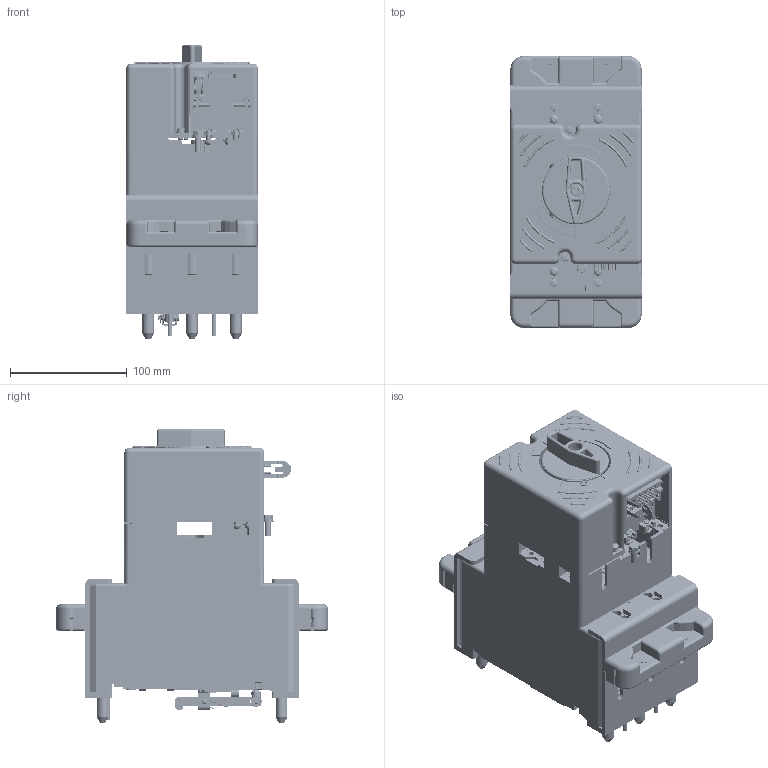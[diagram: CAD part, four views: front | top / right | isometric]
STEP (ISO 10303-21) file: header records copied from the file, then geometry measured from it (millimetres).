
FILE_DESCRIPTION (( 'STEP AP214' ), '1' );
FILE_NAME ('Âûêëþ÷àòåëü ÂÀ57-35 âòû÷íîãî èñïîëíåíèÿ ÝÌÏ.STEP', '2018-04-20T11:05:57', ( '' ), ( '' ), 'SwSTEP 2.0', 'SolidWorks 2018', '' );
FILE_SCHEMA (( 'AUTOMOTIVE_DESIGN' ));
Length unit declared in the file: millimetre
Products named in the file (1): Âûêëþ÷àòåëü ÂÀ57-35 âòû÷íîãî èñïîëíåíèÿ ÝÌÏ
Bounding box: 112.5 x 232.49 x 250.81 mm (x, y, z)
Volume: 1225843.1 mm3; surface area: 682706.2 mm2
Topology: 129 solids, 129 shells, 7010 faces, 18098 edges, 11460 vertices
Faces by surface type: plane 3483, cylinder 2603, cone 328, torus 292, bspline 187, sphere 117
Entity records: 313481 total; most frequent: CARTESIAN_POINT 62124, DIRECTION 36607, ORIENTED_EDGE 35908, EDGE_CURVE 17954, AXIS2_PLACEMENT_3D 12789, VERTEX_POINT 11456, LINE 11029, VECTOR 11029
